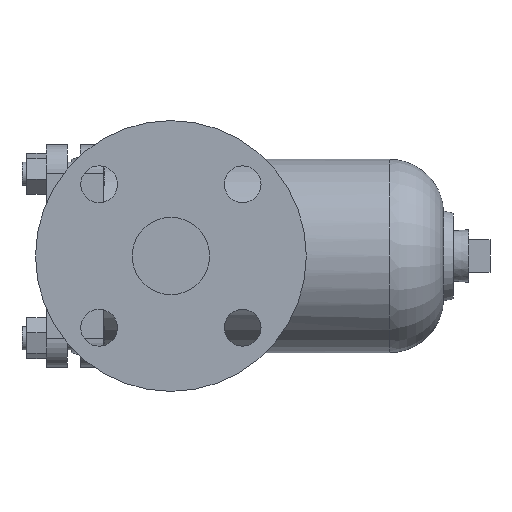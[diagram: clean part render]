
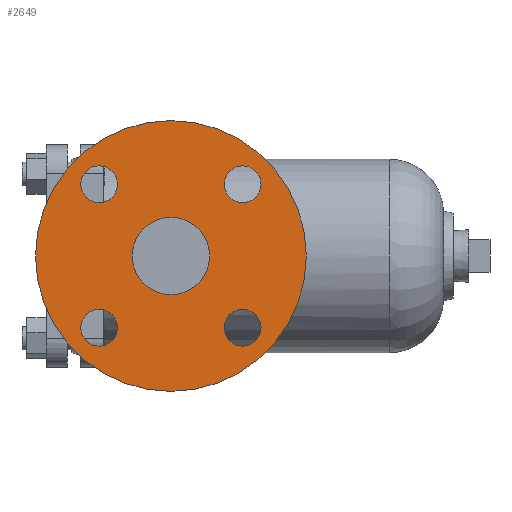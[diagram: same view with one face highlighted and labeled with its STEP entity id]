
A CAD part, left-side view. The second image highlights one B-rep face of the part: STEP entity #2649.
In plain terms, the highlighted planar face has unit normal (-1, 0, 0).
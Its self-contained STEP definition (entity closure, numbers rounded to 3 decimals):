
#161 = AXIS2_PLACEMENT_3D ( 'NONE', #3503, #1967, #4151 ) ;
#311 = CIRCLE ( 'NONE', #3050, 70. ) ;
#337 = EDGE_CURVE ( 'NONE', #5111, #4828, #3187, .T. ) ;
#358 = VERTEX_POINT ( 'NONE', #3103 ) ;
#359 = VERTEX_POINT ( 'NONE', #1990 ) ;
#373 = AXIS2_PLACEMENT_3D ( 'NONE', #3058, #5240, #2519 ) ;
#376 = DIRECTION ( 'NONE',  ( -1., 0., 0. ) ) ;
#525 = CIRCLE ( 'NONE', #2460, 9.5 ) ;
#581 = CARTESIAN_POINT ( 'NONE',  ( -100., 0., 0. ) ) ;
#703 = VERTEX_POINT ( 'NONE', #1948 ) ;
#736 = DIRECTION ( 'NONE',  ( 0., 0., 1. ) ) ;
#768 = CIRCLE ( 'NONE', #6015, 9.5 ) ;
#830 = ORIENTED_EDGE ( 'NONE', *, *, #1685, .T. ) ;
#877 = DIRECTION ( 'NONE',  ( 0., 0., -1. ) ) ;
#879 = AXIS2_PLACEMENT_3D ( 'NONE', #4178, #6362, #1456 ) ;
#895 = CARTESIAN_POINT ( 'NONE',  ( -100., 0., 0. ) ) ;
#946 = CARTESIAN_POINT ( 'NONE',  ( -100., -37.123, 37.123 ) ) ;
#1008 = DIRECTION ( 'NONE',  ( -1., 0., 0. ) ) ;
#1055 = DIRECTION ( 'NONE',  ( -1., 0., 0. ) ) ;
#1064 = DIRECTION ( 'NONE',  ( 0., 1., 0. ) ) ;
#1111 = DIRECTION ( 'NONE',  ( -1., 0., 0. ) ) ;
#1124 = DIRECTION ( 'NONE',  ( 0., 0., -1. ) ) ;
#1216 = EDGE_LOOP ( 'NONE', ( #5436, #1869 ) ) ;
#1257 = CARTESIAN_POINT ( 'NONE',  ( -100., 0., 0. ) ) ;
#1394 = CIRCLE ( 'NONE', #373, 9.5 ) ;
#1413 = CARTESIAN_POINT ( 'NONE',  ( -100., 0., -20. ) ) ;
#1434 = CIRCLE ( 'NONE', #6230, 9.5 ) ;
#1456 = DIRECTION ( 'NONE',  ( 0., -1., 0. ) ) ;
#1551 = FACE_OUTER_BOUND ( 'NONE', #6381, .T. ) ;
#1559 = CIRCLE ( 'NONE', #3501, 70. ) ;
#1583 = EDGE_CURVE ( 'NONE', #5918, #4501, #768, .T. ) ;
#1601 = DIRECTION ( 'NONE',  ( 0., 0., 1. ) ) ;
#1655 = PLANE ( 'NONE',  #3393 ) ;
#1685 = EDGE_CURVE ( 'NONE', #5811, #2217, #311, .T. ) ;
#1739 = CARTESIAN_POINT ( 'NONE',  ( -100., 0., 0. ) ) ;
#1869 = ORIENTED_EDGE ( 'NONE', *, *, #1583, .F. ) ;
#1886 = CARTESIAN_POINT ( 'NONE',  ( -100., 0., 20. ) ) ;
#1948 = CARTESIAN_POINT ( 'NONE',  ( -100., -37.123, 46.623 ) ) ;
#1967 = DIRECTION ( 'NONE',  ( -1., 0., 0. ) ) ;
#1990 = CARTESIAN_POINT ( 'NONE',  ( -100., -37.123, -46.623 ) ) ;
#2020 = CARTESIAN_POINT ( 'NONE',  ( -100., -37.123, -27.623 ) ) ;
#2044 = EDGE_CURVE ( 'NONE', #2217, #5811, #1559, .T. ) ;
#2094 = CARTESIAN_POINT ( 'NONE',  ( -100., -37.123, 27.623 ) ) ;
#2217 = VERTEX_POINT ( 'NONE', #2453 ) ;
#2231 = CIRCLE ( 'NONE', #879, 9.5 ) ;
#2453 = CARTESIAN_POINT ( 'NONE',  ( -100., 0., 70. ) ) ;
#2456 = EDGE_LOOP ( 'NONE', ( #6076, #6308 ) ) ;
#2460 = AXIS2_PLACEMENT_3D ( 'NONE', #946, #376, #877 ) ;
#2465 = AXIS2_PLACEMENT_3D ( 'NONE', #1257, #4483, #736 ) ;
#2519 = DIRECTION ( 'NONE',  ( 0., 1., 0. ) ) ;
#2541 = ORIENTED_EDGE ( 'NONE', *, *, #5179, .F. ) ;
#2649 = ADVANCED_FACE ( 'NONE', ( #4985, #4274, #2700, #6558, #6458, #1551 ), #1655, .F. ) ;
#2700 = FACE_BOUND ( 'NONE', #4512, .T. ) ;
#2710 = CARTESIAN_POINT ( 'NONE',  ( -100., 37.123, -37.123 ) ) ;
#2753 = DIRECTION ( 'NONE',  ( 0., 0., 1. ) ) ;
#2769 = DIRECTION ( 'NONE',  ( 1., 0., 0. ) ) ;
#3037 = CARTESIAN_POINT ( 'NONE',  ( -100., 37.123, 37.123 ) ) ;
#3050 = AXIS2_PLACEMENT_3D ( 'NONE', #581, #1111, #2753 ) ;
#3058 = CARTESIAN_POINT ( 'NONE',  ( -100., -37.123, -37.123 ) ) ;
#3103 = CARTESIAN_POINT ( 'NONE',  ( -100., 37.123, 46.623 ) ) ;
#3152 = CIRCLE ( 'NONE', #2465, 20. ) ;
#3187 = CIRCLE ( 'NONE', #5001, 20. ) ;
#3190 = CARTESIAN_POINT ( 'NONE',  ( -100., 37.123, -46.623 ) ) ;
#3218 = ORIENTED_EDGE ( 'NONE', *, *, #6877, .F. ) ;
#3266 = DIRECTION ( 'NONE',  ( 0., 0., 1. ) ) ;
#3327 = ORIENTED_EDGE ( 'NONE', *, *, #3381, .F. ) ;
#3381 = EDGE_CURVE ( 'NONE', #3413, #703, #525, .T. ) ;
#3393 = AXIS2_PLACEMENT_3D ( 'NONE', #4883, #2769, #1124 ) ;
#3408 = CARTESIAN_POINT ( 'NONE',  ( -100., 0., -70. ) ) ;
#3413 = VERTEX_POINT ( 'NONE', #2094 ) ;
#3427 = EDGE_CURVE ( 'NONE', #359, #3754, #1434, .T. ) ;
#3501 = AXIS2_PLACEMENT_3D ( 'NONE', #1739, #4394, #1601 ) ;
#3503 = CARTESIAN_POINT ( 'NONE',  ( -100., -37.123, 37.123 ) ) ;
#3720 = CIRCLE ( 'NONE', #6010, 9.5 ) ;
#3734 = DIRECTION ( 'NONE',  ( -1., 0., 0. ) ) ;
#3754 = VERTEX_POINT ( 'NONE', #2020 ) ;
#3960 = EDGE_CURVE ( 'NONE', #358, #5340, #2231, .T. ) ;
#3990 = ORIENTED_EDGE ( 'NONE', *, *, #3960, .F. ) ;
#3993 = EDGE_CURVE ( 'NONE', #4828, #5111, #3152, .T. ) ;
#4037 = DIRECTION ( 'NONE',  ( -1., 0., 0. ) ) ;
#4082 = CARTESIAN_POINT ( 'NONE',  ( -100., 37.123, -27.623 ) ) ;
#4083 = EDGE_LOOP ( 'NONE', ( #4479, #3327 ) ) ;
#4151 = DIRECTION ( 'NONE',  ( 0., 0., -1. ) ) ;
#4178 = CARTESIAN_POINT ( 'NONE',  ( -100., 37.123, 37.123 ) ) ;
#4187 = ORIENTED_EDGE ( 'NONE', *, *, #3427, .F. ) ;
#4274 = FACE_BOUND ( 'NONE', #4083, .T. ) ;
#4394 = DIRECTION ( 'NONE',  ( -1., 0., 0. ) ) ;
#4479 = ORIENTED_EDGE ( 'NONE', *, *, #6970, .F. ) ;
#4483 = DIRECTION ( 'NONE',  ( -1., 0., 0. ) ) ;
#4501 = VERTEX_POINT ( 'NONE', #4082 ) ;
#4512 = EDGE_LOOP ( 'NONE', ( #3990, #3218 ) ) ;
#4579 = DIRECTION ( 'NONE',  ( 0., -1., 0. ) ) ;
#4828 = VERTEX_POINT ( 'NONE', #1886 ) ;
#4834 = CIRCLE ( 'NONE', #161, 9.5 ) ;
#4877 = CARTESIAN_POINT ( 'NONE',  ( -100., 37.123, 27.623 ) ) ;
#4883 = CARTESIAN_POINT ( 'NONE',  ( -100., 0., 0. ) ) ;
#4892 = DIRECTION ( 'NONE',  ( 0., 0., 1. ) ) ;
#4985 = FACE_BOUND ( 'NONE', #6800, .T. ) ;
#5001 = AXIS2_PLACEMENT_3D ( 'NONE', #895, #3734, #6422 ) ;
#5111 = VERTEX_POINT ( 'NONE', #1413 ) ;
#5179 = EDGE_CURVE ( 'NONE', #3754, #359, #1394, .T. ) ;
#5240 = DIRECTION ( 'NONE',  ( -1., 0., 0. ) ) ;
#5340 = VERTEX_POINT ( 'NONE', #4877 ) ;
#5416 = CARTESIAN_POINT ( 'NONE',  ( -100., 37.123, -37.123 ) ) ;
#5436 = ORIENTED_EDGE ( 'NONE', *, *, #6315, .F. ) ;
#5516 = AXIS2_PLACEMENT_3D ( 'NONE', #3037, #4037, #4579 ) ;
#5811 = VERTEX_POINT ( 'NONE', #3408 ) ;
#5918 = VERTEX_POINT ( 'NONE', #3190 ) ;
#6010 = AXIS2_PLACEMENT_3D ( 'NONE', #2710, #1008, #4892 ) ;
#6015 = AXIS2_PLACEMENT_3D ( 'NONE', #5416, #1055, #3266 ) ;
#6076 = ORIENTED_EDGE ( 'NONE', *, *, #3993, .F. ) ;
#6230 = AXIS2_PLACEMENT_3D ( 'NONE', #6998, #7064, #1064 ) ;
#6308 = ORIENTED_EDGE ( 'NONE', *, *, #337, .F. ) ;
#6315 = EDGE_CURVE ( 'NONE', #4501, #5918, #3720, .T. ) ;
#6329 = CIRCLE ( 'NONE', #5516, 9.5 ) ;
#6362 = DIRECTION ( 'NONE',  ( -1., 0., 0. ) ) ;
#6381 = EDGE_LOOP ( 'NONE', ( #6941, #830 ) ) ;
#6422 = DIRECTION ( 'NONE',  ( 0., 0., 1. ) ) ;
#6458 = FACE_BOUND ( 'NONE', #2456, .T. ) ;
#6558 = FACE_BOUND ( 'NONE', #1216, .T. ) ;
#6800 = EDGE_LOOP ( 'NONE', ( #2541, #4187 ) ) ;
#6877 = EDGE_CURVE ( 'NONE', #5340, #358, #6329, .T. ) ;
#6941 = ORIENTED_EDGE ( 'NONE', *, *, #2044, .T. ) ;
#6970 = EDGE_CURVE ( 'NONE', #703, #3413, #4834, .T. ) ;
#6998 = CARTESIAN_POINT ( 'NONE',  ( -100., -37.123, -37.123 ) ) ;
#7064 = DIRECTION ( 'NONE',  ( -1., 0., 0. ) ) ;
